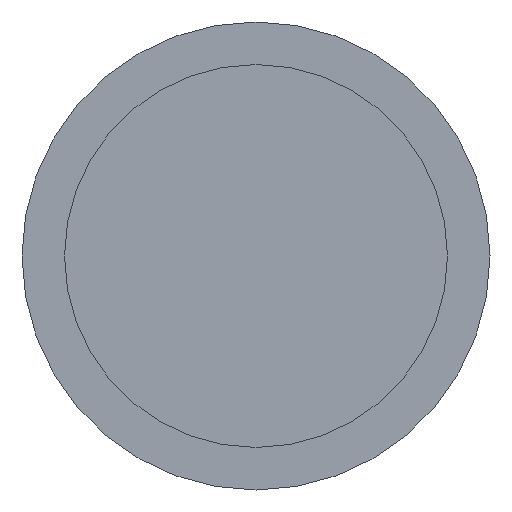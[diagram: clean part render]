
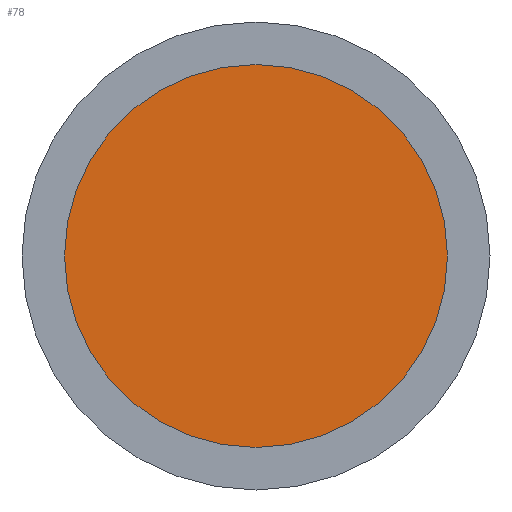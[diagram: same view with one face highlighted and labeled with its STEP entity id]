
A CAD part, front view. The second image highlights one B-rep face of the part: STEP entity #78.
In plain terms, the highlighted planar face has unit normal (0, -1, 0).
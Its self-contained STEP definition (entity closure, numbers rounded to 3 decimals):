
#47 = ORIENTED_EDGE ( 'NONE', *, *, #186, .F. ) ;
#50 = ORIENTED_EDGE ( 'NONE', *, *, #137, .F. ) ;
#78 = ADVANCED_FACE ( 'NONE', ( #335 ), #294, .T. ) ;
#136 = VERTEX_POINT ( 'NONE', #473 ) ;
#137 = EDGE_CURVE ( 'NONE', #136, #187, #470, .T. ) ;
#186 = EDGE_CURVE ( 'NONE', #187, #136, #422, .T. ) ;
#187 = VERTEX_POINT ( 'NONE', #426 ) ;
#237 = EDGE_LOOP ( 'NONE', ( #50, #47 ) ) ;
#282 = DIRECTION ( 'NONE',  ( 0., -1., 0. ) ) ;
#283 = CARTESIAN_POINT ( 'NONE',  ( 0., 0., 0. ) ) ;
#290 = AXIS2_PLACEMENT_3D ( 'NONE', #283, #282, #325 ) ;
#294 = PLANE ( 'NONE',  #290 ) ;
#325 = DIRECTION ( 'NONE',  ( 0., 0., -1. ) ) ;
#335 = FACE_OUTER_BOUND ( 'NONE', #237, .T. ) ;
#348 = DIRECTION ( 'NONE',  ( 0., 0., 1. ) ) ;
#349 = DIRECTION ( 'NONE',  ( 0., 1., 0. ) ) ;
#350 = CARTESIAN_POINT ( 'NONE',  ( 0., 0., 0. ) ) ;
#351 = AXIS2_PLACEMENT_3D ( 'NONE', #350, #349, #348 ) ;
#409 = DIRECTION ( 'NONE',  ( 0., 0., 1. ) ) ;
#410 = DIRECTION ( 'NONE',  ( 0., 1., 0. ) ) ;
#411 = CARTESIAN_POINT ( 'NONE',  ( 0., 0., 0. ) ) ;
#420 = AXIS2_PLACEMENT_3D ( 'NONE', #411, #410, #409 ) ;
#422 = CIRCLE ( 'NONE', #420, 18. ) ;
#426 = CARTESIAN_POINT ( 'NONE',  ( 0., 0., -18. ) ) ;
#470 = CIRCLE ( 'NONE', #351, 18. ) ;
#473 = CARTESIAN_POINT ( 'NONE',  ( 0., 0., 18. ) ) ;
